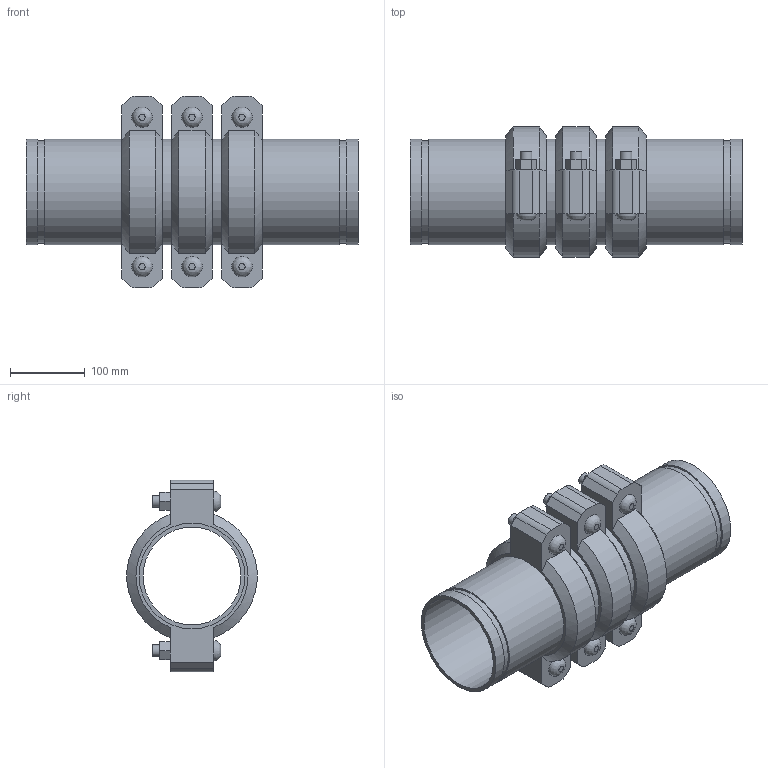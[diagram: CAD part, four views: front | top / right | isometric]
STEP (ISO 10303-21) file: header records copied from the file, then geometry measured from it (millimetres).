
FILE_DESCRIPTION(/* description */ ('VIC EXPANSION JOINT 3 COUPLINGS EXPANDED STYLE 155 (OGS)','CAx-IF Rec.Pracs.---Representation and Presentation of Product Manufacturing Information (PMI)---4.0---2014-10-13'),/* implementation_level */ '2;1');
FILE_NAME(/* name */ 'C:\Users\kkamble\AppData\Roaming\Autodesk\ApplicationPlugins\Victaulic.Temp\A258\Victaulic_IPS_Expansion Joint_Expanded_3 Couplings_Style 155 (OGS)_5 (125).stp',/* time_stamp */ '2021-06-26T23:58:36+02:00',/* author */ ('kkamble'),/* organization */ ('Victaulic'),/* preprocessor_version */ 'ST-DEVELOPER v17.2',/* originating_system */ 'Autodesk Inventor 2019',/* authorisation */ '');
FILE_SCHEMA (('AP242_MANAGED_MODEL_BASED_3D_ENGINEERING_MIM_LF { 1 0 10303 442 1 1 4 }'));
Length unit declared in the file: inch
Products named in the file (4): 155-05.0; Nipple-05.0; Nipple-05.0_1; 075-05.0
Assembly tree (7 placements, depth 2):
  155-05.0
    Nipple-05.0  x2
    Nipple-05.0_1  x2
    075-05.0  x3
Bounding box: 443.99 x 174.16 x 255.78 mm (x, y, z)
Volume: 2906957.5 mm3; surface area: 707098.6 mm2
Topology: 7 solids, 13 shells, 219 faces, 519 edges, 366 vertices
Faces by surface type: plane 132, cylinder 69, cone 12, bspline 6
Full cylindrical faces by diameter (mm): 15.875 x12, 17.424 x6, 130.988 x4, 134.95 x3, 137.033 x8, 141.3 x18
Entity records: 2769 total; most frequent: CARTESIAN_POINT 491, DIRECTION 457, ORIENTED_EDGE 386, EDGE_CURVE 193, AXIS2_PLACEMENT_3D 182, VERTEX_POINT 138, EDGE_LOOP 107, LINE 93
